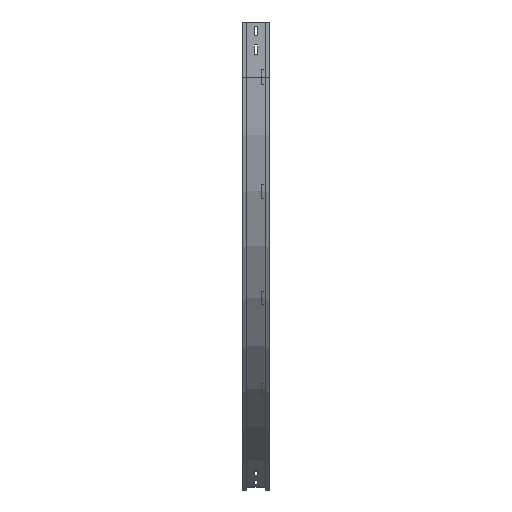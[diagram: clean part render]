
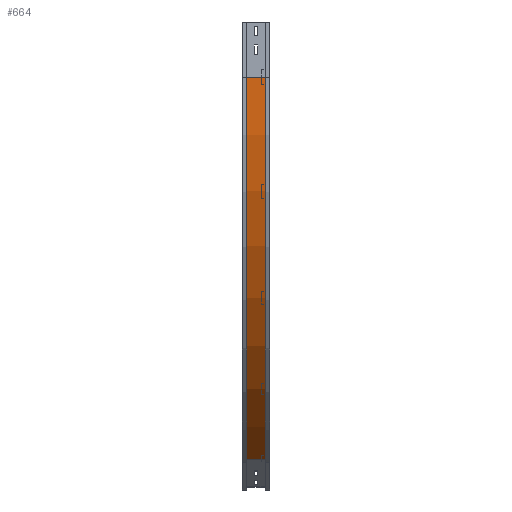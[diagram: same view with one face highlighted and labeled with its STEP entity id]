
A CAD part, left-side view. The second image highlights one B-rep face of the part: STEP entity #664.
In plain terms, the highlighted cylindrical face has radius 1200 mm (diameter 2400 mm), a partial arc.
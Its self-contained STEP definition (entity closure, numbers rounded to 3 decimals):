
#5 = LINE ( 'NONE', #2904, #3294 ) ;
#19 = ORIENTED_EDGE ( 'NONE', *, *, #1297, .T. ) ;
#23 = CARTESIAN_POINT ( 'NONE',  ( 609., 63., -1189.23 ) ) ;
#86 = LINE ( 'NONE', #1150, #3409 ) ;
#99 = CARTESIAN_POINT ( 'NONE',  ( 9., 12., -150. ) ) ;
#138 = CARTESIAN_POINT ( 'NONE',  ( 609., 12., -1189.23 ) ) ;
#355 = EDGE_CURVE ( 'NONE', #2157, #2421, #2528, .T. ) ;
#545 = DIRECTION ( 'NONE',  ( 0., -1., 0. ) ) ;
#592 = EDGE_CURVE ( 'NONE', #2157, #1216, #5, .T. ) ;
#664 = ADVANCED_FACE ( 'NONE', ( #761 ), #2924, .T. ) ;
#761 = FACE_OUTER_BOUND ( 'NONE', #3168, .T. ) ;
#899 = DIRECTION ( 'NONE',  ( -1., 0., 0. ) ) ;
#1138 = DIRECTION ( 'NONE',  ( 0., -1., 0. ) ) ;
#1142 = DIRECTION ( 'NONE',  ( -1., 0., 0. ) ) ;
#1150 = CARTESIAN_POINT ( 'NONE',  ( 609., 12., -1189.23 ) ) ;
#1197 = VERTEX_POINT ( 'NONE', #138 ) ;
#1216 = VERTEX_POINT ( 'NONE', #99 ) ;
#1297 = EDGE_CURVE ( 'NONE', #2421, #1197, #86, .T. ) ;
#1311 = CARTESIAN_POINT ( 'NONE',  ( 1209., 0., -150. ) ) ;
#1944 = CARTESIAN_POINT ( 'NONE',  ( 1209., 63., -150. ) ) ;
#1962 = DIRECTION ( 'NONE',  ( 0., -1., 0. ) ) ;
#2094 = ORIENTED_EDGE ( 'NONE', *, *, #355, .T. ) ;
#2124 = DIRECTION ( 'NONE',  ( 0., -1., 0. ) ) ;
#2137 = AXIS2_PLACEMENT_3D ( 'NONE', #2991, #2221, #1142 ) ;
#2157 = VERTEX_POINT ( 'NONE', #2551 ) ;
#2221 = DIRECTION ( 'NONE',  ( 0., -1., 0. ) ) ;
#2421 = VERTEX_POINT ( 'NONE', #23 ) ;
#2528 = CIRCLE ( 'NONE', #2970, 1200. ) ;
#2551 = CARTESIAN_POINT ( 'NONE',  ( 9., 63., -150. ) ) ;
#2624 = DIRECTION ( 'NONE',  ( 0., 0., -1. ) ) ;
#2904 = CARTESIAN_POINT ( 'NONE',  ( 9., 12., -150. ) ) ;
#2924 = CYLINDRICAL_SURFACE ( 'NONE', #3138, 1200. ) ;
#2970 = AXIS2_PLACEMENT_3D ( 'NONE', #1944, #1962, #899 ) ;
#2991 = CARTESIAN_POINT ( 'NONE',  ( 1209., 12., -150. ) ) ;
#3000 = ORIENTED_EDGE ( 'NONE', *, *, #3052, .F. ) ;
#3052 = EDGE_CURVE ( 'NONE', #1216, #1197, #3358, .T. ) ;
#3127 = ORIENTED_EDGE ( 'NONE', *, *, #592, .F. ) ;
#3138 = AXIS2_PLACEMENT_3D ( 'NONE', #1311, #545, #2624 ) ;
#3168 = EDGE_LOOP ( 'NONE', ( #3000, #3127, #2094, #19 ) ) ;
#3294 = VECTOR ( 'NONE', #2124, 1000. ) ;
#3358 = CIRCLE ( 'NONE', #2137, 1200. ) ;
#3409 = VECTOR ( 'NONE', #1138, 1000. ) ;
